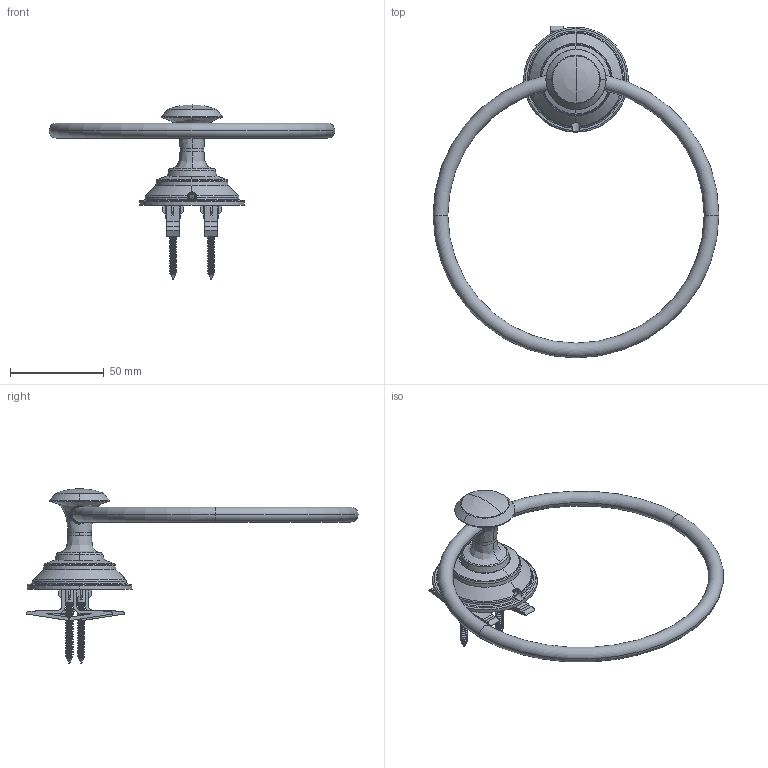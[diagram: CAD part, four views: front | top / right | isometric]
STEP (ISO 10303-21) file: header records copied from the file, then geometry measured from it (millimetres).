
FILE_DESCRIPTION (( 'STEP AP214' ), '1' );
FILE_NAME ('583TR.STEP', '2025-01-06T01:08:23', ( '' ), ( '' ), 'SwSTEP 2.0', 'SolidWorks 2023', '' );
FILE_SCHEMA (( 'AUTOMOTIVE_DESIGN' ));
Length unit declared in the file: inch
Products named in the file (1): 583TR
Bounding box: 152.4 x 177.06 x 93.09 mm (x, y, z)
Surface area: 28323.5 mm2 (no closed solid volume)
Topology: 0 solids, 13 shells, 375 faces, 1211 edges, 821 vertices
Faces by surface type: cylinder 125, plane 112, bspline 73, torus 35, cone 28, sphere 2
Entity records: 43474 total; most frequent: CARTESIAN_POINT 34028, ORIENTED_EDGE 2147, DIRECTION 1542, EDGE_CURVE 1207, VERTEX_POINT 820, AXIS2_PLACEMENT_3D 573, B_SPLINE_CURVE_WITH_KNOTS 537, EDGE_LOOP 398
